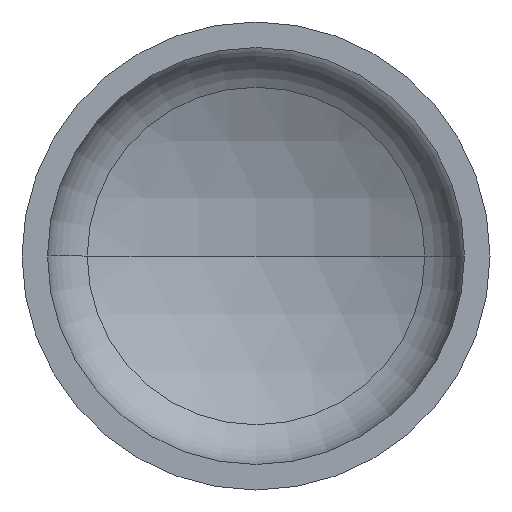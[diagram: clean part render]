
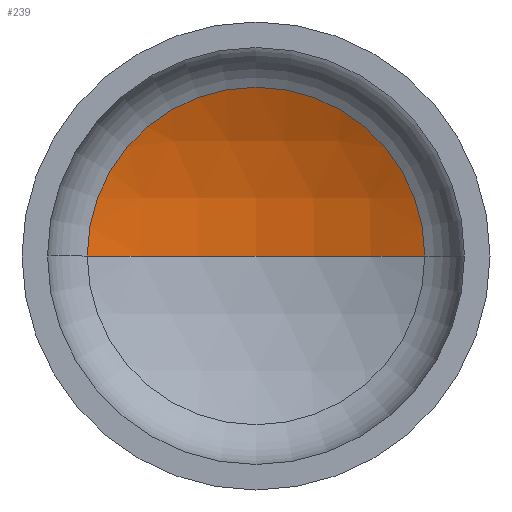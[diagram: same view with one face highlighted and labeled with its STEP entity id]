
A CAD part, front view. The second image highlights one B-rep face of the part: STEP entity #239.
In plain terms, the highlighted spherical face has radius 880 mm.
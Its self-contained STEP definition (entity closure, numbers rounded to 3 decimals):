
#5 = AXIS2_PLACEMENT_3D ( 'NONE', #289, #91, #315 ) ;
#12 = DIRECTION ( 'NONE',  ( 0., -1., 0. ) ) ;
#18 = AXIS2_PLACEMENT_3D ( 'NONE', #374, #351, #394 ) ;
#29 = AXIS2_PLACEMENT_3D ( 'NONE', #117, #326, #154 ) ;
#32 = AXIS2_PLACEMENT_3D ( 'NONE', #261, #12, #279 ) ;
#60 = ORIENTED_EDGE ( 'NONE', *, *, #99, .T. ) ;
#73 = VERTEX_POINT ( 'NONE', #388 ) ;
#91 = DIRECTION ( 'NONE',  ( 0., 0., 1. ) ) ;
#96 = CIRCLE ( 'NONE', #29, 880. ) ;
#97 = VERTEX_POINT ( 'NONE', #260 ) ;
#99 = EDGE_CURVE ( 'NONE', #73, #97, #182, .T. ) ;
#104 = EDGE_CURVE ( 'NONE', #212, #73, #96, .T. ) ;
#117 = CARTESIAN_POINT ( 'NONE',  ( 0., -513.798, 0. ) ) ;
#120 = ORIENTED_EDGE ( 'NONE', *, *, #104, .T. ) ;
#154 = DIRECTION ( 'NONE',  ( -1., 0., 0. ) ) ;
#177 = EDGE_LOOP ( 'NONE', ( #238, #120, #60 ) ) ;
#182 = CIRCLE ( 'NONE', #32, 396.62 ) ;
#212 = VERTEX_POINT ( 'NONE', #263 ) ;
#238 = ORIENTED_EDGE ( 'NONE', *, *, #360, .F. ) ;
#239 = ADVANCED_FACE ( 'NONE', ( #367 ), #309, .F. ) ;
#260 = CARTESIAN_POINT ( 'NONE',  ( -396.62, 271.754, 0. ) ) ;
#261 = CARTESIAN_POINT ( 'NONE',  ( 0., 271.754, 0. ) ) ;
#263 = CARTESIAN_POINT ( 'NONE',  ( 0., 366.202, 0. ) ) ;
#279 = DIRECTION ( 'NONE',  ( 1., 0., 0. ) ) ;
#289 = CARTESIAN_POINT ( 'NONE',  ( 0., -513.798, 0. ) ) ;
#309 = SPHERICAL_SURFACE ( 'NONE', #18, 880. ) ;
#315 = DIRECTION ( 'NONE',  ( 1., 0., 0. ) ) ;
#326 = DIRECTION ( 'NONE',  ( 0., 0., -1. ) ) ;
#351 = DIRECTION ( 'NONE',  ( 0., 0., -1. ) ) ;
#360 = EDGE_CURVE ( 'NONE', #212, #97, #406, .T. ) ;
#367 = FACE_OUTER_BOUND ( 'NONE', #177, .T. ) ;
#374 = CARTESIAN_POINT ( 'NONE',  ( 0., -513.798, 0. ) ) ;
#388 = CARTESIAN_POINT ( 'NONE',  ( 396.62, 271.754, 0. ) ) ;
#394 = DIRECTION ( 'NONE',  ( -1., 0., 0. ) ) ;
#406 = CIRCLE ( 'NONE', #5, 880. ) ;
